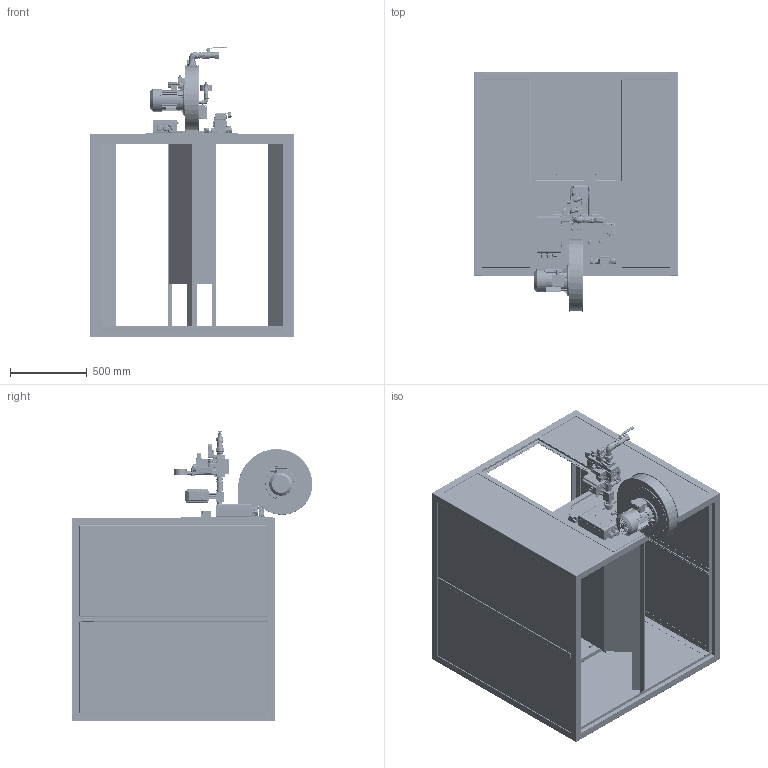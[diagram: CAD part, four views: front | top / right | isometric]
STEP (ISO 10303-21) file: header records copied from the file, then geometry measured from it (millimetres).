
FILE_DESCRIPTION (( 'STEP AP203' ), '1' );
FILE_NAME ('Gr.2_GFB-Gehäuse+Brenner.STEP', '2020-03-05T15:34:38', ( '' ), ( '' ), 'SwSTEP 2.0', 'SolidWorks 2019', '' );
FILE_SCHEMA (( 'CONFIG_CONTROL_DESIGN' ));
Products named in the file (1): Gr.2_GFB-Gehäuse+Brenner
Bounding box: 1325 x 1565.48 x 1888.94 mm (x, y, z)
Surface area: 38226622.2 mm2 (no closed solid volume)
Topology: 0 solids, 135 shells, 15381 faces, 41880 edges, 26495 vertices
Faces by surface type: plane 7510, cylinder 3633, bspline 2824, cone 1205, torus 177, sphere 32
Entity records: 621513 total; most frequent: CARTESIAN_POINT 259945, ORIENTED_EDGE 79981, DIRECTION 65970, EDGE_CURVE 41577, VERTEX_POINT 26495, LINE 23608, VECTOR 23608, AXIS2_PLACEMENT_3D 21181
